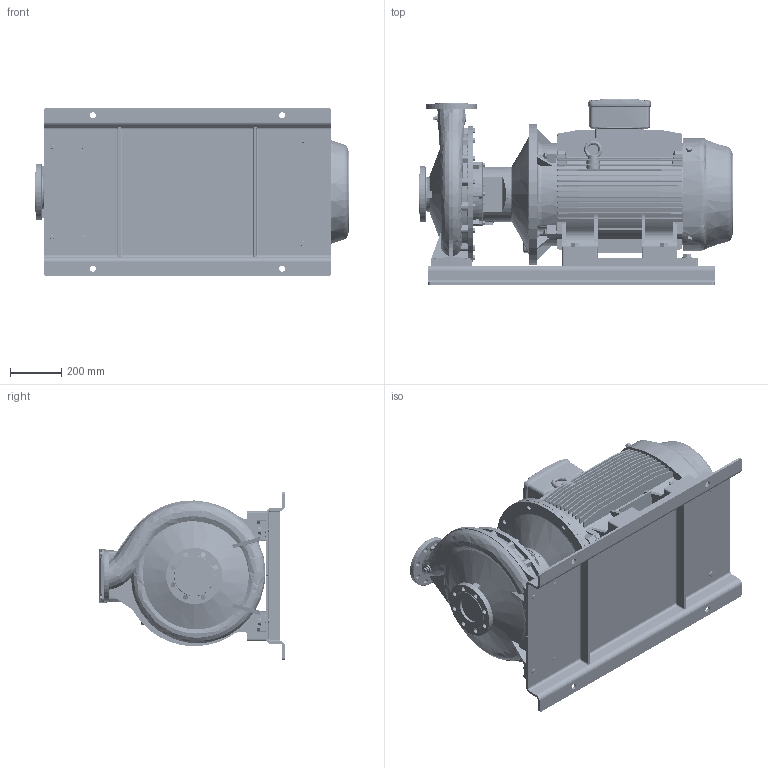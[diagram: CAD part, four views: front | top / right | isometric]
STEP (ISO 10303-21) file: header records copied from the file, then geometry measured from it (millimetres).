
FILE_DESCRIPTION (( 'STEP AP214' ), '1' );
FILE_NAME ('GSD4 80-400_55_(250SM)_W21_BP.STEP', '2026-05-08T06:25:37', ( '' ), ( '' ), 'SwSTEP 2.0', 'SolidWorks 2024', '' );
FILE_SCHEMA (( 'AUTOMOTIVE_DESIGN' ));
Length unit declared in the file: millimetre
Products named in the file (12): Parametric bolt and washer_SFT-A417B; Parametric Flat Washer_M20; 250S_M4P IE3_W21T_B35; 100x30 - CGSDA-5291; Parametric Flat Washer_M16; N8S3 GSDA-83A F1-1832964-00; GSD4 80-400_55_(250SM)_W21_BP; Parametric bolt and washer_SFT-A353B; A407B Bolt_407; Parametric bolt_SFT-A417B; Parametric bolt_SFT-A353B; 80-400-250S_M_ﾃﾞﾌｫﾙﾄ
Assembly tree (21 placements, depth 3):
  GSD4 80-400_55_(250SM)_W21_BP
    80-400-250S_M_ﾃﾞﾌｫﾙﾄ
    250S_M4P IE3_W21T_B35
    N8S3 GSDA-83A F1-1832964-00
    100x30 - CGSDA-5291  x2
    Parametric bolt and washer_SFT-A353B  x4
      Parametric bolt_SFT-A353B
      Parametric Flat Washer_M16
    Parametric bolt and washer_SFT-A417B  x4
      Parametric bolt_SFT-A417B
      Parametric Flat Washer_M20
    A407B Bolt_407  x2
    Parametric Flat Washer_M20  x2
Bounding box: 1225.5 x 728 x 660 mm (x, y, z)
Volume: 165421493.6 mm3; surface area: 7746018.8 mm2
Topology: 34 solids, 39 shells, 4571 faces, 12064 edges, 7696 vertices
Faces by surface type: plane 1781, cylinder 1586, cone 531, torus 343, bspline 312, sphere 18
Entity records: 187797 total; most frequent: CARTESIAN_POINT 91997, ORIENTED_EDGE 21058, DIRECTION 18905, EDGE_CURVE 10529, AXIS2_PLACEMENT_3D 6977, VERTEX_POINT 6705, VECTOR 4951, LINE 4951
